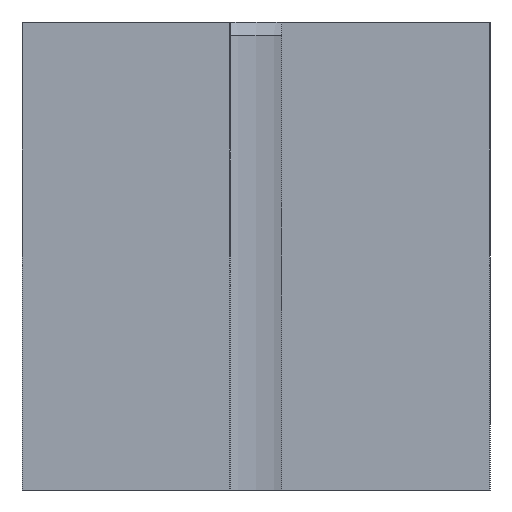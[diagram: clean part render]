
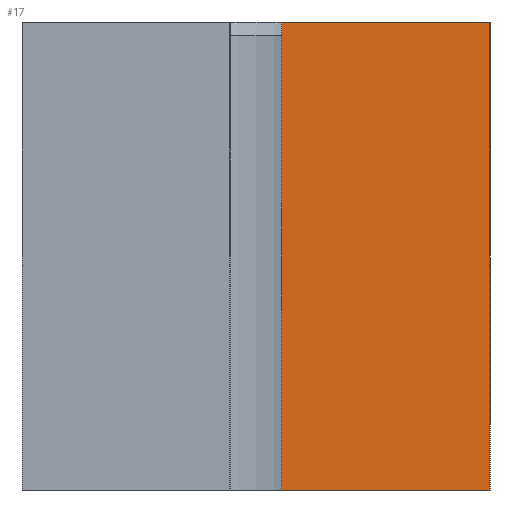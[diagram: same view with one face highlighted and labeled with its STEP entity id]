
A CAD part, left-side view. The second image highlights one B-rep face of the part: STEP entity #17.
In plain terms, the highlighted planar face has unit normal (-1, 0, 0).
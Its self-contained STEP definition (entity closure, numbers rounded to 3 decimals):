
#17 = ADVANCED_FACE('',(#18),#32,.F.);
#18 = FACE_BOUND('',#19,.T.);
#19 = EDGE_LOOP('',(#20,#55,#83,#111));
#20 = ORIENTED_EDGE('',*,*,#21,.F.);
#21 = EDGE_CURVE('',#22,#24,#26,.T.);
#22 = VERTEX_POINT('',#23);
#23 = CARTESIAN_POINT('',(-24.5,-1.,-9.));
#24 = VERTEX_POINT('',#25);
#25 = CARTESIAN_POINT('',(-24.5,-1.,9.));
#26 = SURFACE_CURVE('',#27,(#31,#43),.PCURVE_S1.);
#27 = LINE('',#28,#29);
#28 = CARTESIAN_POINT('',(-24.5,-1.,-46.218));
#29 = VECTOR('',#30,1.);
#30 = DIRECTION('',(0.,0.,1.));
#31 = PCURVE('',#32,#37);
#32 = PLANE('',#33);
#33 = AXIS2_PLACEMENT_3D('',#34,#35,#36);
#34 = CARTESIAN_POINT('',(-24.5,-9.,9.));
#35 = DIRECTION('',(1.,0.,0.));
#36 = DIRECTION('',(0.,0.,-1.));
#37 = DEFINITIONAL_REPRESENTATION('',(#38),#42);
#38 = LINE('',#39,#40);
#39 = CARTESIAN_POINT('',(55.218,8.));
#40 = VECTOR('',#41,1.);
#41 = DIRECTION('',(-1.,0.));
#42 = ( GEOMETRIC_REPRESENTATION_CONTEXT(2) 
PARAMETRIC_REPRESENTATION_CONTEXT() REPRESENTATION_CONTEXT('2D SPACE',''
  ) );
#43 = PCURVE('',#44,#49);
#44 = PLANE('',#45);
#45 = AXIS2_PLACEMENT_3D('',#46,#47,#48);
#46 = CARTESIAN_POINT('',(-8.5,-1.,-46.218));
#47 = DIRECTION('',(0.,1.,0.));
#48 = DIRECTION('',(0.,-0.,1.));
#49 = DEFINITIONAL_REPRESENTATION('',(#50),#54);
#50 = LINE('',#51,#52);
#51 = CARTESIAN_POINT('',(0.,-16.));
#52 = VECTOR('',#53,1.);
#53 = DIRECTION('',(1.,0.));
#54 = ( GEOMETRIC_REPRESENTATION_CONTEXT(2) 
PARAMETRIC_REPRESENTATION_CONTEXT() REPRESENTATION_CONTEXT('2D SPACE',''
  ) );
#55 = ORIENTED_EDGE('',*,*,#56,.F.);
#56 = EDGE_CURVE('',#57,#22,#59,.T.);
#57 = VERTEX_POINT('',#58);
#58 = CARTESIAN_POINT('',(-24.5,-9.,-9.));
#59 = SURFACE_CURVE('',#60,(#64,#71),.PCURVE_S1.);
#60 = LINE('',#61,#62);
#61 = CARTESIAN_POINT('',(-24.5,-9.,-9.));
#62 = VECTOR('',#63,1.);
#63 = DIRECTION('',(0.,1.,0.));
#64 = PCURVE('',#32,#65);
#65 = DEFINITIONAL_REPRESENTATION('',(#66),#70);
#66 = LINE('',#67,#68);
#67 = CARTESIAN_POINT('',(18.,0.));
#68 = VECTOR('',#69,1.);
#69 = DIRECTION('',(0.,1.));
#70 = ( GEOMETRIC_REPRESENTATION_CONTEXT(2) 
PARAMETRIC_REPRESENTATION_CONTEXT() REPRESENTATION_CONTEXT('2D SPACE',''
  ) );
#71 = PCURVE('',#72,#77);
#72 = PLANE('',#73);
#73 = AXIS2_PLACEMENT_3D('',#74,#75,#76);
#74 = CARTESIAN_POINT('',(-24.5,-9.,-9.));
#75 = DIRECTION('',(0.,0.,1.));
#76 = DIRECTION('',(1.,0.,0.));
#77 = DEFINITIONAL_REPRESENTATION('',(#78),#82);
#78 = LINE('',#79,#80);
#79 = CARTESIAN_POINT('',(0.,0.));
#80 = VECTOR('',#81,1.);
#81 = DIRECTION('',(0.,1.));
#82 = ( GEOMETRIC_REPRESENTATION_CONTEXT(2) 
PARAMETRIC_REPRESENTATION_CONTEXT() REPRESENTATION_CONTEXT('2D SPACE',''
  ) );
#83 = ORIENTED_EDGE('',*,*,#84,.F.);
#84 = EDGE_CURVE('',#85,#57,#87,.T.);
#85 = VERTEX_POINT('',#86);
#86 = CARTESIAN_POINT('',(-24.5,-9.,9.));
#87 = SURFACE_CURVE('',#88,(#92,#99),.PCURVE_S1.);
#88 = LINE('',#89,#90);
#89 = CARTESIAN_POINT('',(-24.5,-9.,9.));
#90 = VECTOR('',#91,1.);
#91 = DIRECTION('',(0.,0.,-1.));
#92 = PCURVE('',#32,#93);
#93 = DEFINITIONAL_REPRESENTATION('',(#94),#98);
#94 = LINE('',#95,#96);
#95 = CARTESIAN_POINT('',(0.,0.));
#96 = VECTOR('',#97,1.);
#97 = DIRECTION('',(1.,0.));
#98 = ( GEOMETRIC_REPRESENTATION_CONTEXT(2) 
PARAMETRIC_REPRESENTATION_CONTEXT() REPRESENTATION_CONTEXT('2D SPACE',''
  ) );
#99 = PCURVE('',#100,#105);
#100 = PLANE('',#101);
#101 = AXIS2_PLACEMENT_3D('',#102,#103,#104);
#102 = CARTESIAN_POINT('',(0.,-9.,0.));
#103 = DIRECTION('',(0.,-1.,0.));
#104 = DIRECTION('',(0.,0.,-1.));
#105 = DEFINITIONAL_REPRESENTATION('',(#106),#110);
#106 = LINE('',#107,#108);
#107 = CARTESIAN_POINT('',(-9.,-24.5));
#108 = VECTOR('',#109,1.);
#109 = DIRECTION('',(1.,0.));
#110 = ( GEOMETRIC_REPRESENTATION_CONTEXT(2) 
PARAMETRIC_REPRESENTATION_CONTEXT() REPRESENTATION_CONTEXT('2D SPACE',''
  ) );
#111 = ORIENTED_EDGE('',*,*,#112,.T.);
#112 = EDGE_CURVE('',#85,#24,#113,.T.);
#113 = SURFACE_CURVE('',#114,(#118,#125),.PCURVE_S1.);
#114 = LINE('',#115,#116);
#115 = CARTESIAN_POINT('',(-24.5,-9.,9.));
#116 = VECTOR('',#117,1.);
#117 = DIRECTION('',(0.,1.,0.));
#118 = PCURVE('',#32,#119);
#119 = DEFINITIONAL_REPRESENTATION('',(#120),#124);
#120 = LINE('',#121,#122);
#121 = CARTESIAN_POINT('',(0.,0.));
#122 = VECTOR('',#123,1.);
#123 = DIRECTION('',(0.,1.));
#124 = ( GEOMETRIC_REPRESENTATION_CONTEXT(2) 
PARAMETRIC_REPRESENTATION_CONTEXT() REPRESENTATION_CONTEXT('2D SPACE',''
  ) );
#125 = PCURVE('',#126,#131);
#126 = PLANE('',#127);
#127 = AXIS2_PLACEMENT_3D('',#128,#129,#130);
#128 = CARTESIAN_POINT('',(24.5,-9.,9.));
#129 = DIRECTION('',(0.,0.,-1.));
#130 = DIRECTION('',(-1.,0.,0.));
#131 = DEFINITIONAL_REPRESENTATION('',(#132),#136);
#132 = LINE('',#133,#134);
#133 = CARTESIAN_POINT('',(49.,0.));
#134 = VECTOR('',#135,1.);
#135 = DIRECTION('',(0.,1.));
#136 = ( GEOMETRIC_REPRESENTATION_CONTEXT(2) 
PARAMETRIC_REPRESENTATION_CONTEXT() REPRESENTATION_CONTEXT('2D SPACE',''
  ) );
